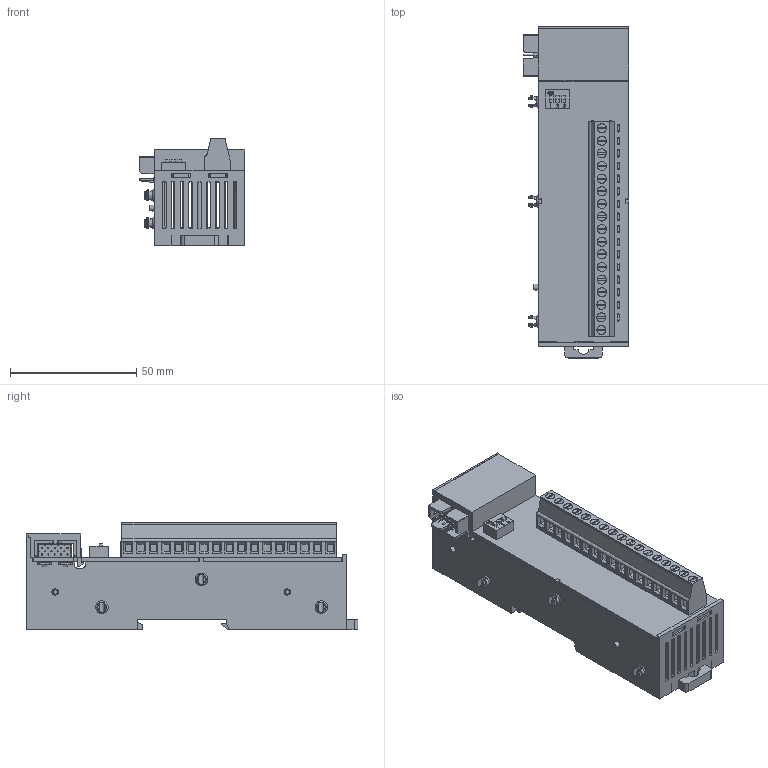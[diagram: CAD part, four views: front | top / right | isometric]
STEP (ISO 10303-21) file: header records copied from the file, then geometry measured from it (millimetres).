
FILE_DESCRIPTION (( 'STEP AP214' ), '1' );
FILE_NAME ('CFDI-16B_ASM.STEP', '2024-08-08T11:15:43', ( '' ), ( '' ), 'SwSTEP 2.0', 'SolidWorks 2020', '' );
FILE_SCHEMA (( 'AUTOMOTIVE_DESIGN' ));
Length unit declared in the file: millimetre
Products named in the file (1): CFDI-16B_ASM
Bounding box: 42 x 131.5 x 42.7 mm (x, y, z)
Volume: 46498.3 mm3; surface area: 48061.5 mm2
Topology: 1 solids, 4 shells, 1672 faces, 4354 edges, 2754 vertices
Faces by surface type: plane 1222, cylinder 243, cone 114, bspline 93
Full cylindrical faces by diameter (mm): 0.5 x40, 1.6 x14, 2 x1, 2.2 x3, 3.6 x17, 4.6 x3, 6 x1, 9 x1
Entity records: 52549 total; most frequent: CARTESIAN_POINT 13065, ORIENTED_EDGE 8352, DIRECTION 7561, EDGE_CURVE 4176, LINE 3145, VECTOR 3145, VERTEX_POINT 2714, AXIS2_PLACEMENT_3D 2208
